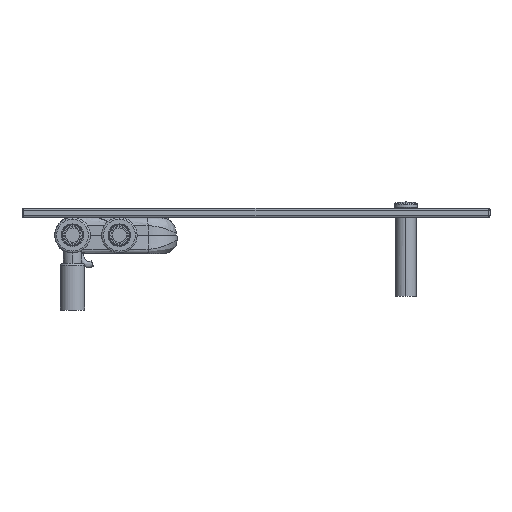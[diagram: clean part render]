
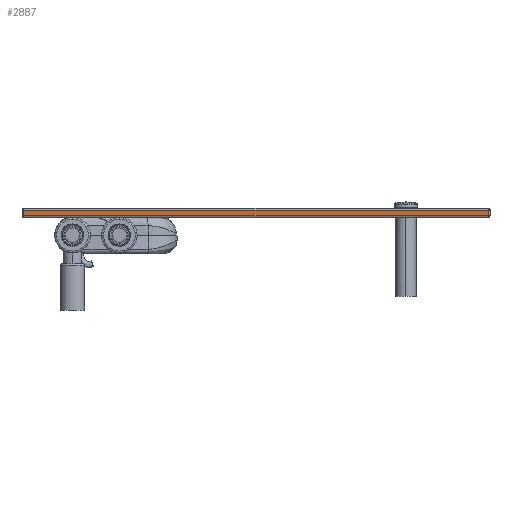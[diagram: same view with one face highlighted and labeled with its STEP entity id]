
A CAD part, front view. The second image highlights one B-rep face of the part: STEP entity #2887.
In plain terms, the highlighted planar face has unit normal (0, -1, 0).
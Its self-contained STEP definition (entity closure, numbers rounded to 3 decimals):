
#2372=DIRECTION('',(0.,0.,1.));
#2373=VECTOR('',#2372,5.5);
#2374=CARTESIAN_POINT('',(-52.,15.,21.25));
#2375=LINE('',#2374,#2373);
#2379=DIRECTION('',(1.,0.,0.));
#2380=VECTOR('',#2379,496.);
#2381=CARTESIAN_POINT('',(-52.,15.,26.75));
#2382=LINE('',#2381,#2380);
#2386=DIRECTION('',(0.,0.,-1.));
#2387=VECTOR('',#2386,5.5);
#2388=CARTESIAN_POINT('',(444.,15.,26.75));
#2389=LINE('',#2388,#2387);
#2521=DIRECTION('',(1.,0.,0.));
#2522=VECTOR('',#2521,496.);
#2523=CARTESIAN_POINT('',(-52.,15.,21.25));
#2524=LINE('',#2523,#2522);
#2714=CARTESIAN_POINT('',(-52.,15.,21.25));
#2715=VERTEX_POINT('',#2714);
#2718=CARTESIAN_POINT('',(-52.,15.,26.75));
#2719=VERTEX_POINT('',#2718);
#2754=CARTESIAN_POINT('',(444.,15.,26.75));
#2755=VERTEX_POINT('',#2754);
#2758=CARTESIAN_POINT('',(444.,15.,21.25));
#2759=VERTEX_POINT('',#2758);
#2873=CARTESIAN_POINT('',(-54.,15.,26.75));
#2874=DIRECTION('',(0.,-1.,0.));
#2875=DIRECTION('',(0.,0.,-1.));
#2876=AXIS2_PLACEMENT_3D('',#2873,#2874,#2875);
#2877=PLANE('',#2876);
#2878=ORIENTED_EDGE('',*,*,#2867,.T.);
#2880=ORIENTED_EDGE('',*,*,#2879,.T.);
#2882=ORIENTED_EDGE('',*,*,#2881,.T.);
#2884=ORIENTED_EDGE('',*,*,#2883,.F.);
#2885=EDGE_LOOP('',(#2878,#2880,#2882,#2884));
#2886=FACE_OUTER_BOUND('',#2885,.F.);
#2867=EDGE_CURVE('',#2715,#2719,#2375,.T.);
#2879=EDGE_CURVE('',#2719,#2755,#2382,.T.);
#2881=EDGE_CURVE('',#2755,#2759,#2389,.T.);
#2883=EDGE_CURVE('',#2715,#2759,#2524,.T.);
#2887=ADVANCED_FACE('',(#2886),#2877,.T.);
